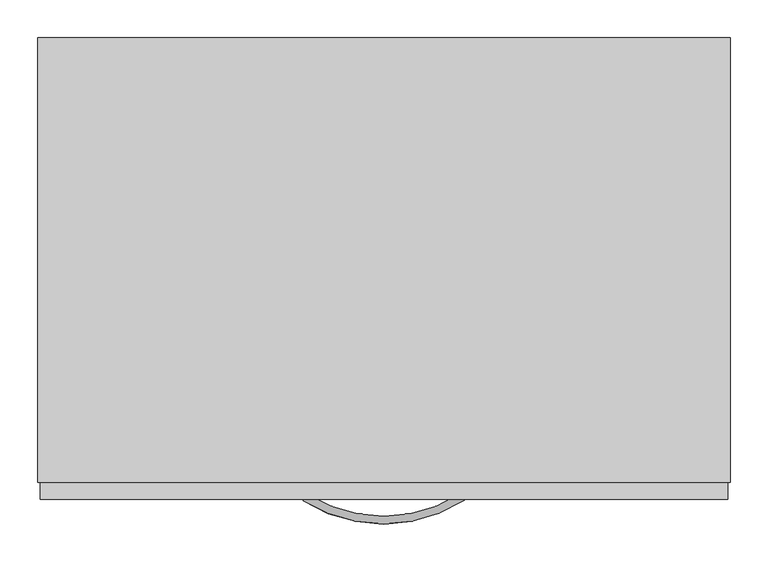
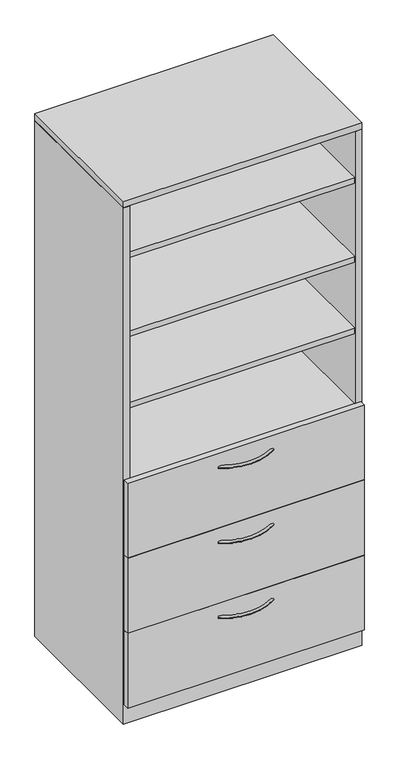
"""IFC4 building model written with IfcOpenShell, lengths in millimetres: furniture geometry, Steelcase - Universal Storage - Cabinet - Combination - Proud Steel : 83 1/2H - Open Cabinet/3 Drawers - 24D x 36W."""

from ifc_helpers import new_model, si_unit, point, frame, origin, place, context, project, spatial, polyline, circle_curve, ellipse_curve, trimmed, outline, extrude, faceted_brep, source, transform, mapped, element, save
from ifc_brep_helpers import plane_surface, revolved_surface, advanced_brep


def furniture_9b61a233(model_context):
    return source(origin(), model_context, "Body", "SolidModel", [
        extrude(outline(polyline([(889.0000242, 104.6479992), (889.0000242, -454.0250121), (25.4000008, -454.0250121), (25.4000008, 104.6479992), (889.0000242, 104.6479992)])), frame((0.0, 0.0, 965.2000242), z_axis=(0.0, 0.0, 1.0), x_axis=(1.0, 0.0, 0.0)), (0.0, 0.0, 1.0), 22.2249516),
        extrude(outline(polyline([(889.0000242, 104.6479992), (889.0000242, -454.0250121), (25.4000008, -454.0250121), (25.4000008, 104.6479992), (889.0000242, 104.6479992)])), frame((0.0, 0.0, 1273.1750484), z_axis=(0.0, 0.0, 1.0), x_axis=(1.0, 0.0, 0.0)), (0.0, 0.0, 1.0), 22.2249516),
        extrude(outline(polyline([(889.0000242, 104.6479992), (889.0000242, -454.0250121), (25.4000008, -454.0250121), (25.4000008, 104.6479992), (889.0000242, 104.6479992)])), frame((0.0, 0.0, 1562.7350484), z_axis=(0.0, 0.0, 1.0), x_axis=(1.0, 0.0, 0.0)), (0.0, 0.0, 1.0), 22.2249516),
        extrude(outline(polyline([(889.0000242, 104.6479992), (889.0000242, -454.0250121), (25.4000008, -454.0250121), (25.4000008, 104.6479992), (889.0000242, 104.6479992)])), frame((0.0, 0.0, 1882.7750484), z_axis=(0.0, 0.0, 1.0), x_axis=(1.0, 0.0, 0.0)), (0.0, 0.0, 1.0), 22.2249516),
        advanced_brep(
        [(350.6245932, -481.5705994, 323.56425), (356.0977519, -473.0108019, 323.56425), (562.9315136, -481.1337636, 323.56425), (557.4231767, -472.5965612, 323.56425)],
        [
            (0, 1, circle_curve(frame((353.3611726, -477.2907007, 323.56425), z_axis=(-0.8424997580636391, 0.5386967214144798, 0.0), x_axis=(0.5386967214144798, 0.8424997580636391, 0.0)), 5.08)),
            (1, 0, circle_curve(frame((353.3611726, -477.2907007, 323.56425), z_axis=(-0.8424997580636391, 0.5386967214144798, 0.0), x_axis=(0.5386967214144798, 0.8424997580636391, 0.0)), 5.08)),
            (2, 3, circle_curve(frame((560.1773452, -476.8651624, 323.56425), z_axis=(0.8402758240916, 0.5421591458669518, 0.0), x_axis=(-0.5421591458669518, 0.8402758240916, 0.0)), 5.08)),
            (3, 2, circle_curve(frame((560.1773452, -476.8651624, 323.56425), z_axis=(0.8402758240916, 0.5421591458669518, 0.0), x_axis=(-0.5421591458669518, 0.8402758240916, 0.0)), 5.08)),
            (3, 1, circle_curve(frame((456.4380004, -316.0827352, 323.56425), z_axis=(0.0, 0.0, -1.0), x_axis=(-0.5386967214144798, -0.8424997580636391, 0.0)), 186.2648211)),
            (0, 2, circle_curve(frame((456.4380004, -316.0827352, 323.56425), z_axis=(0.0, 0.0, 1.0), x_axis=(-0.5386967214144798, -0.8424997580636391, 0.0)), 196.4248211)),
        ],
        [
            plane_surface(frame((353.7794521, -476.6365286, 324.358), z_axis=(-0.8424997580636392, 0.5386967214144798, 0.0), x_axis=(0.0, 0.0, 1.0))),
            plane_surface(frame((559.7563772, -476.2127171, 324.358), z_axis=(0.8402758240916, 0.5421591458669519, 0.0), x_axis=(0.0, 0.0, 1.0))),
            revolved_surface(trimmed(ellipse_curve(frame((353.3611726, -477.2907007, 323.56425), z_axis=(-0.8424997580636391, 0.5386967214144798, 0.0), x_axis=(0.5386967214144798, 0.8424997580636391, 0.0)), 5.08, 5.08), [point((350.6245932, -481.5705994, 323.56425))], [point((356.0977519, -473.0108019, 323.56425))], True, "CARTESIAN"), (456.4380004, -316.0827352, 324.358), (0.0, 0.0, 1.0)),
            revolved_surface(trimmed(ellipse_curve(frame((353.3611726, -477.2907007, 323.56425), z_axis=(-0.8424997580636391, 0.5386967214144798, 0.0), x_axis=(0.5386967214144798, 0.8424997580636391, 0.0)), 5.08, 5.08), [point((356.0977519, -473.0108019, 323.56425))], [point((350.6245932, -481.5705994, 323.56425))], True, "CARTESIAN"), (456.4380004, -316.0827352, 324.358), (0.0, 0.0, 1.0)),
        ],
        [
            (0, [[1, 2]]),
            (1, [[3, 4]]),
            (2, [[5, -1, 6, -4]]),
            (3, [[-6, -2, -5, -3]]),
        ],
    ),
        advanced_brep(
        [(350.6245932, -481.5705994, 627.85625), (356.0977519, -473.0108019, 627.85625), (562.9315136, -481.1337636, 627.85625), (557.4231767, -472.5965612, 627.85625)],
        [
            (0, 1, circle_curve(frame((353.3611726, -477.2907007, 627.85625), z_axis=(-0.8424997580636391, 0.5386967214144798, 0.0), x_axis=(0.5386967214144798, 0.8424997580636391, 0.0)), 5.08)),
            (1, 0, circle_curve(frame((353.3611726, -477.2907007, 627.85625), z_axis=(-0.8424997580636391, 0.5386967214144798, 0.0), x_axis=(0.5386967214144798, 0.8424997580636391, 0.0)), 5.08)),
            (2, 3, circle_curve(frame((560.1773452, -476.8651624, 627.85625), z_axis=(0.8402758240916, 0.5421591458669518, 0.0), x_axis=(-0.5421591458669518, 0.8402758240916, 0.0)), 5.08)),
            (3, 2, circle_curve(frame((560.1773452, -476.8651624, 627.85625), z_axis=(0.8402758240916, 0.5421591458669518, 0.0), x_axis=(-0.5421591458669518, 0.8402758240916, 0.0)), 5.08)),
            (3, 1, circle_curve(frame((456.4380004, -316.0827352, 627.85625), z_axis=(0.0, 0.0, -1.0), x_axis=(-0.5386967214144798, -0.8424997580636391, 0.0)), 186.2648211)),
            (0, 2, circle_curve(frame((456.4380004, -316.0827352, 627.85625), z_axis=(0.0, 0.0, 1.0), x_axis=(-0.5386967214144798, -0.8424997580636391, 0.0)), 196.4248211)),
        ],
        [
            plane_surface(frame((353.7794521, -476.6365286, 628.65), z_axis=(-0.8424997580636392, 0.5386967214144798, 0.0), x_axis=(0.0, 0.0, 1.0))),
            plane_surface(frame((559.7563772, -476.2127171, 628.65), z_axis=(0.8402758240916, 0.5421591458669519, 0.0), x_axis=(0.0, 0.0, 1.0))),
            revolved_surface(trimmed(ellipse_curve(frame((353.3611726, -477.2907007, 627.85625), z_axis=(-0.8424997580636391, 0.5386967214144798, 0.0), x_axis=(0.5386967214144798, 0.8424997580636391, 0.0)), 5.08, 5.08), [point((350.6245932, -481.5705994, 627.85625))], [point((356.0977519, -473.0108019, 627.85625))], True, "CARTESIAN"), (456.4380004, -316.0827352, 628.65), (0.0, 0.0, 1.0)),
            revolved_surface(trimmed(ellipse_curve(frame((353.3611726, -477.2907007, 627.85625), z_axis=(-0.8424997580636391, 0.5386967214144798, 0.0), x_axis=(0.5386967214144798, 0.8424997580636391, 0.0)), 5.08, 5.08), [point((356.0977519, -473.0108019, 627.85625))], [point((350.6245932, -481.5705994, 627.85625))], True, "CARTESIAN"), (456.4380004, -316.0827352, 628.65), (0.0, 0.0, 1.0)),
        ],
        [
            (0, [[1, 2]]),
            (1, [[3, 4]]),
            (2, [[5, -1, 6, -4]]),
            (3, [[-6, -2, -5, -3]]),
        ],
    ),
        extrude(outline(polyline([(911.2225413, -479.552), (3.1725353, -479.552), (3.1725353, -457.3261219), (911.2225413, -457.3261219), (911.2225413, -479.552)])), frame((0.0, 0.0, 687.3240349), z_axis=(0.0, 0.0, 1.0), x_axis=(1.0, 0.0, 0.0)), (0.0, 0.0, 1.0), 303.2759651),
        advanced_brep(
        [(350.6245932, -481.5705994, 932.65625), (356.0977519, -473.0108019, 932.65625), (562.9315136, -481.1337636, 932.65625), (557.4231767, -472.5965612, 932.65625)],
        [
            (0, 1, circle_curve(frame((353.3611726, -477.2907007, 932.65625), z_axis=(-0.8424997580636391, 0.5386967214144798, 0.0), x_axis=(0.5386967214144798, 0.8424997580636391, 0.0)), 5.08)),
            (1, 0, circle_curve(frame((353.3611726, -477.2907007, 932.65625), z_axis=(-0.8424997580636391, 0.5386967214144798, 0.0), x_axis=(0.5386967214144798, 0.8424997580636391, 0.0)), 5.08)),
            (2, 3, circle_curve(frame((560.1773452, -476.8651624, 932.65625), z_axis=(0.8402758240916, 0.5421591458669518, 0.0), x_axis=(-0.5421591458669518, 0.8402758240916, 0.0)), 5.08)),
            (3, 2, circle_curve(frame((560.1773452, -476.8651624, 932.65625), z_axis=(0.8402758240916, 0.5421591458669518, 0.0), x_axis=(-0.5421591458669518, 0.8402758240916, 0.0)), 5.08)),
            (3, 1, circle_curve(frame((456.4380004, -316.0827352, 932.65625), z_axis=(0.0, 0.0, -1.0), x_axis=(-0.5386967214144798, -0.8424997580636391, 0.0)), 186.2648211)),
            (0, 2, circle_curve(frame((456.4380004, -316.0827352, 932.65625), z_axis=(0.0, 0.0, 1.0), x_axis=(-0.5386967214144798, -0.8424997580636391, 0.0)), 196.4248211)),
        ],
        [
            plane_surface(frame((353.7794521, -476.6365286, 933.45), z_axis=(-0.8424997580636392, 0.5386967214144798, 0.0), x_axis=(0.0, 0.0, 1.0))),
            plane_surface(frame((559.7563772, -476.2127171, 933.45), z_axis=(0.8402758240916, 0.5421591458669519, 0.0), x_axis=(0.0, 0.0, 1.0))),
            revolved_surface(trimmed(ellipse_curve(frame((353.3611726, -477.2907007, 932.65625), z_axis=(-0.8424997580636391, 0.5386967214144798, 0.0), x_axis=(0.5386967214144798, 0.8424997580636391, 0.0)), 5.08, 5.08), [point((350.6245932, -481.5705994, 932.65625))], [point((356.0977519, -473.0108019, 932.65625))], True, "CARTESIAN"), (456.4380004, -316.0827352, 933.45), (0.0, 0.0, 1.0)),
            revolved_surface(trimmed(ellipse_curve(frame((353.3611726, -477.2907007, 932.65625), z_axis=(-0.8424997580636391, 0.5386967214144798, 0.0), x_axis=(0.5386967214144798, 0.8424997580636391, 0.0)), 5.08, 5.08), [point((356.0977519, -473.0108019, 932.65625))], [point((350.6245932, -481.5705994, 932.65625))], True, "CARTESIAN"), (456.4380004, -316.0827352, 933.45), (0.0, 0.0, 1.0)),
        ],
        [
            (0, [[1, 2]]),
            (1, [[3, 4]]),
            (2, [[5, -1, 6, -4]]),
            (3, [[-6, -2, -5, -3]]),
        ],
    ),
        faceted_brep([(25.4000008, -457.3261219, 76.2), (889.0000242, -457.3261219, 76.2), (889.0000242, 104.6479992, 76.2), (25.4000008, 104.6479992, 76.2), (914.4, 130.048, 0.0), (914.4, -457.3261219, 0.0), (0.0, -457.3261219, 0.0), (0.0, 130.048, 0.0), (0.0, 130.048, 2093.976), (914.4, 130.048, 2093.976), (0.0, -457.3261219, 2093.976), (914.4, -457.3261219, 2093.976), (889.0000242, -457.3261219, 2093.976), (25.4000008, -457.3261219, 2093.976), (889.0000242, 104.6479992, 2093.976), (25.4000008, 104.6479992, 2093.976)], [[[0, 1, 2, 3]], [[4, 5, 6, 7]], [[4, 7, 8, 9]], [[8, 7, 6, 10]], [[10, 6, 5, 11, 12, 1, 0, 13]], [[11, 5, 4, 9]], [[14, 12, 11, 9, 8, 10, 13, 15]], [[12, 14, 2, 1]], [[15, 13, 0, 3]], [[14, 15, 3, 2]]]),
        extrude(outline(polyline([(911.2225413, -479.552), (3.1725353, -479.552), (3.1725353, -457.3261219), (911.2225413, -457.3261219), (911.2225413, -479.552)])), frame((0.0, 0.0, 77.724), z_axis=(0.0, 0.0, 1.0), x_axis=(1.0, 0.0, 0.0)), (0.0, 0.0, 1.0), 303.276),
        extrude(outline(polyline([(911.2225413, -479.552), (3.1725353, -479.552), (3.1725353, -457.3261219), (911.2225413, -457.3261219), (911.2225413, -479.552)])), frame((0.0, 0.0, 382.524), z_axis=(0.0, 0.0, 1.0), x_axis=(1.0, 0.0, 0.0)), (0.0, 0.0, 1.0), 303.276),
        extrude(outline(polyline([(914.4, 130.048), (914.4, -457.3261219), (0.0, -457.3261219), (0.0, 130.048), (914.4, 130.048)])), frame((0.0, 0.0, 2095.4999516), z_axis=(0.0, 0.0, 1.0), x_axis=(1.0, 0.0, 0.0)), (0.0, 0.0, 1.0), 25.4000484),
    ])


if __name__ == "__main__":
    model = new_model("IFC4")
    model_context = context("Model", 3, world=origin())
    ifc_project = project(units=[si_unit("LENGTHUNIT", "METRE", prefix="MILLI")], contexts=[model_context])
    site = spatial("IfcSite", under=ifc_project)
    building = spatial("IfcBuilding", under=site)
    placement = place(None, origin())
    furniture_shape = furniture_9b61a233(model_context)
    element("IfcFurniture", 1, ObjectType="Steelcase - Universal Storage - Cabinet - Combination - Proud Steel : 83 1/2H - Open Cabinet/3 Drawers - 24D x 36W", at=placement, inside=building, context=model_context, shape_type="MappedRepresentation", body=[
        mapped(furniture_shape, transform((0.0, 0.0, 0.0), x_axis=(1.0, 0.0, 0.0), y_axis=(0.0, 1.0, 0.0), z_axis=(0.0, 0.0, 1.0))),
    ])
    save(model, "model.ifc")
